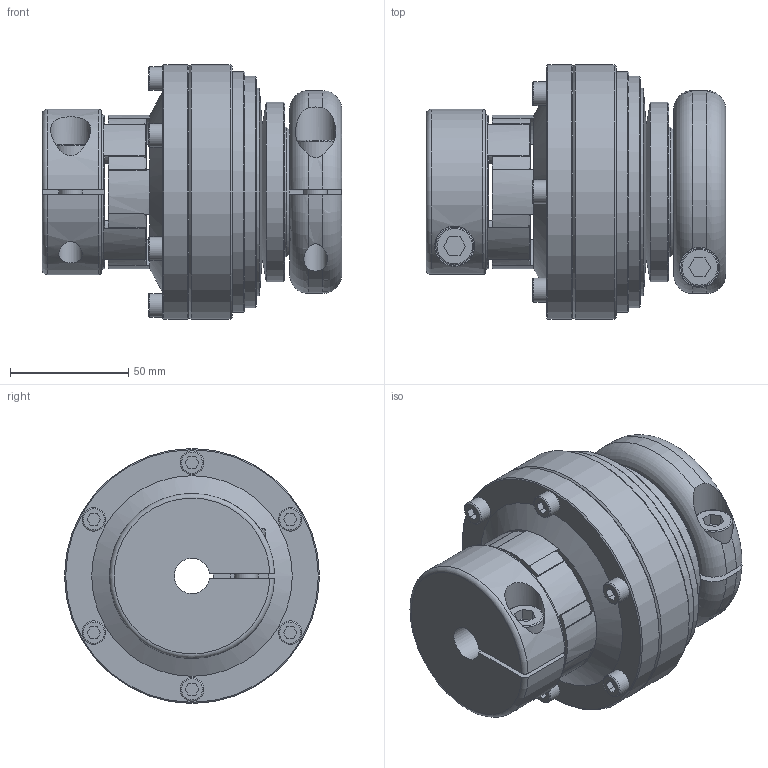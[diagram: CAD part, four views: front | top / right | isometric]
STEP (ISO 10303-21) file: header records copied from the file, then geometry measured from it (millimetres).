
FILE_DESCRIPTION(/* description */ ('Unknown'),/* implementation_level */ '2;1');
FILE_NAME(/* name */ 'SKVA-EK 70',/* time_stamp */ '2025-02-12T11:48:48+01:00',/* author */ ('Unknown'),/* organization */ ('Unknown'),/* preprocessor_version */ 'ST-DEVELOPER v18.102',/* originating_system */ 'Solid Edge',/* authorisation */ 'Unknown');
FILE_SCHEMA (('AUTOMOTIVE_DESIGN {1 0 10303 214 3 1 1}'));
Length unit declared in the file: millimetre
Products named in the file (1): SKVA-EK  70
Bounding box: 126.8 x 108 x 108 mm (x, y, z)
Volume: 659777.6 mm3; surface area: 91697.2 mm2
Topology: 2 solids, 4 shells, 271 faces, 665 edges, 424 vertices
Faces by surface type: plane 115, bspline 71, cylinder 44, cone 28, torus 13
Full cylindrical faces by diameter (mm): 10 x12, 16 x2, 17 x2, 18 x1, 32.31 x1, 55 x1, 76 x1, 98 x1, 102 x1, 108 x2
Entity records: 8677 total; most frequent: CARTESIAN_POINT 3009, ORIENTED_EDGE 1212, DIRECTION 950, EDGE_CURVE 606, VERTEX_POINT 409, AXIS2_PLACEMENT_3D 348, EDGE_LOOP 347, FACE_BOUND 347
